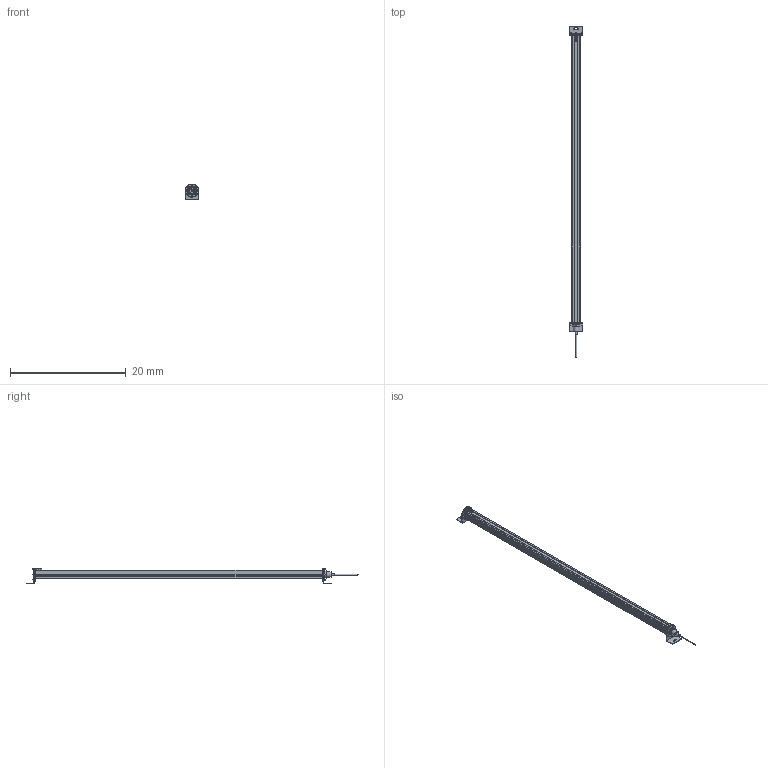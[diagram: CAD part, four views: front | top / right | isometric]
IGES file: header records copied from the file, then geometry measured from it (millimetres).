
Start section:  Autodesk DirectConnect version 7.0.27.0 ---- IGES version 5.3
Global section: file name: C:\ACADFILES\MG_PYLONS\CUSTOMER_FILES\MG-48-PYLON_3D_SMB.iges; native system: Autodesk DirectConnect 7.0.27.0; preprocessor: 7.0.27.0; author: ENGINEERMAIN; organization: Unknown; date: 20150810.142640; units: millimetre
Bounding box: 2.26 x 57.44 x 2.75 mm (x, y, z)
Surface area: 791.1 mm2 (no closed solid volume)
Topology: 0 solids, 0 shells, 771 faces, 3970 edges, 3969 vertices
Faces by surface type: bspline 771
